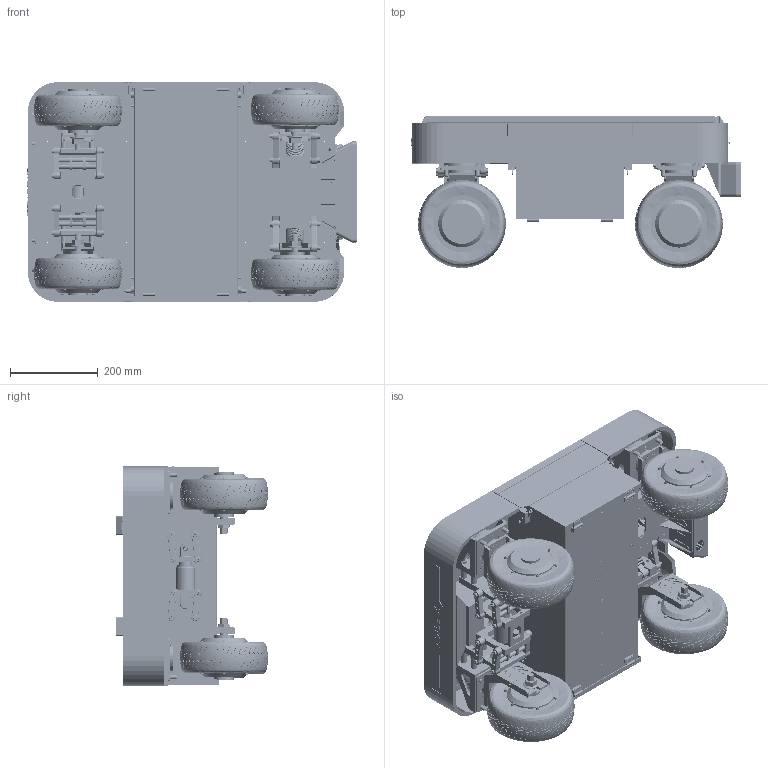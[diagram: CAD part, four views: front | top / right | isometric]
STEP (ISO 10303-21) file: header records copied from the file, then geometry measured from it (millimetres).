
FILE_DESCRIPTION (( 'STEP AP214' ), '1' );
FILE_NAME ('RGM2 v2.01.STEP', '2024-05-16T09:10:20', ( '' ), ( '' ), 'SwSTEP 2.0', 'SolidWorks 2019', '' );
FILE_SCHEMA (( 'AUTOMOTIVE_DESIGN' ));
Length unit declared in the file: millimetre
Products named in the file (1): RGM2 v2.01
Bounding box: 750.5 x 346.01 x 500 mm (x, y, z)
Volume: 34512645.3 mm3; surface area: 5092446 mm2
Topology: 317 solids, 333 shells, 19825 faces, 50606 edges, 32440 vertices
Faces by surface type: plane 8905, cylinder 6979, bspline 1923, cone 1522, torus 336, sphere 160
Entity records: 931088 total; most frequent: CARTESIAN_POINT 250689, ORIENTED_EDGE 99924, DIRECTION 89160, EDGE_CURVE 49962, AXIS2_PLACEMENT_3D 33183, VERTEX_POINT 32212, EDGE_LOOP 23362, LINE 22794
